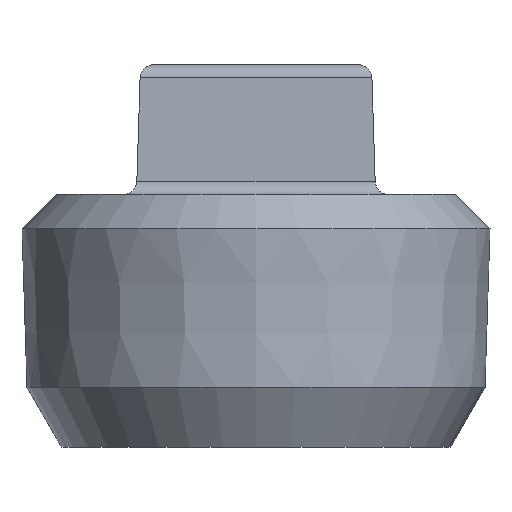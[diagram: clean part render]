
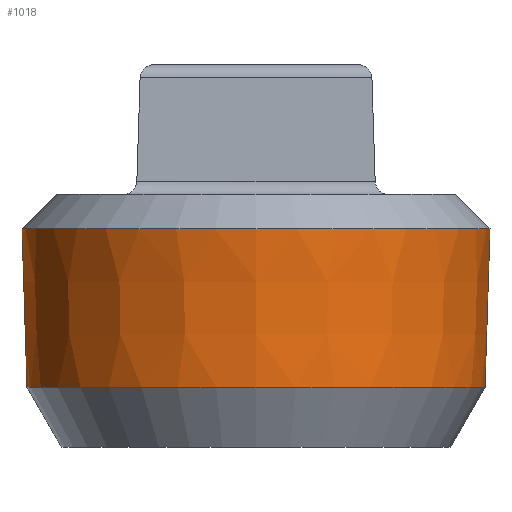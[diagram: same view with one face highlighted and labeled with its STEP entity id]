
A CAD part, front view. The second image highlights one B-rep face of the part: STEP entity #1018.
In plain terms, the highlighted conical face has half-angle 1.8 degrees and reference radius 17.2 mm.
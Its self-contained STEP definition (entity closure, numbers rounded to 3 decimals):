
#987=CARTESIAN_POINT('',(16.757,0.,-14.104));
#988=VERTEX_POINT('',#987);
#989=CARTESIAN_POINT('',(0.0,0.,-14.104));
#990=DIRECTION('',(0.0,0.0,-1.0));
#991=DIRECTION('',(-1.0,0.0,0.0));
#992=AXIS2_PLACEMENT_3D('',#989,#990,#991);
#993=CIRCLE('',#992,16.757);
#994=EDGE_CURVE('',#988,#988,#993,.T.);
#999=CARTESIAN_POINT('',(0.0,0.0,0.0));
#1000=DIRECTION('',(0.0,0.0,1.0));
#1001=DIRECTION('',(-1.0,0.0,0.0));
#1002=AXIS2_PLACEMENT_3D('',#999,#1000,#1001);
#1003=CONICAL_SURFACE('',#1002,17.2,1.8);
#1004=CARTESIAN_POINT('',(17.121,0.0,-2.521));
#1005=VERTEX_POINT('',#1004);
#1006=CARTESIAN_POINT('',(0.0,0.,-2.521));
#1007=DIRECTION('',(0.0,0.0,1.0));
#1008=DIRECTION('',(-1.0,0.0,0.0));
#1009=AXIS2_PLACEMENT_3D('',#1006,#1007,#1008);
#1010=CIRCLE('',#1009,17.121);
#1011=EDGE_CURVE('',#1005,#1005,#1010,.T.);
#1012=ORIENTED_EDGE('',*,*,#1011,.F.);
#1013=EDGE_LOOP('',(#1012));
#1014=FACE_OUTER_BOUND('',#1013,.T.);
#1015=ORIENTED_EDGE('',*,*,#994,.F.);
#1016=EDGE_LOOP('',(#1015));
#1017=FACE_BOUND('',#1016,.T.);
#1018=ADVANCED_FACE('',(#1014,#1017),#1003,.T.);
